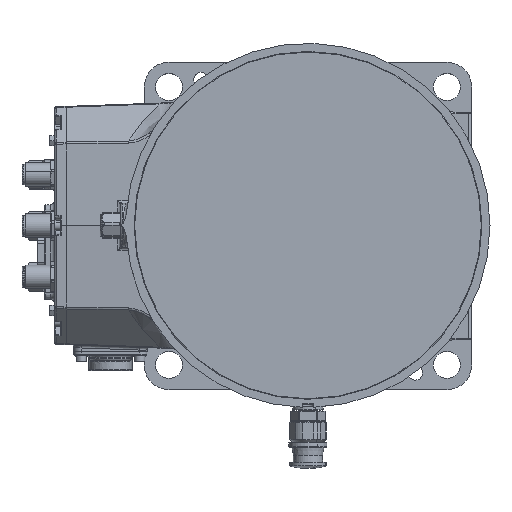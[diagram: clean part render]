
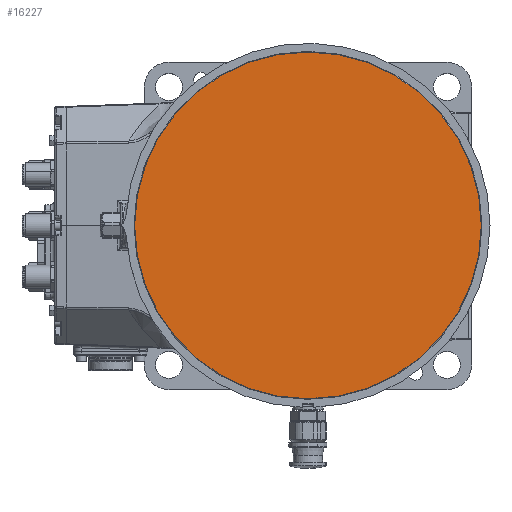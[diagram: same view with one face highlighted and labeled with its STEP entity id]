
A CAD part, top view. The second image highlights one B-rep face of the part: STEP entity #16227.
In plain terms, the highlighted planar face has unit normal (0, 0, 1).
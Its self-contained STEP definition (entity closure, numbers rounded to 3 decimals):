
#585 = CARTESIAN_POINT ( 'NONE',  ( 118.5, 0., 254. ) ) ;
#1637 = CIRCLE ( 'NONE', #33656, 118.5 ) ;
#2302 = CARTESIAN_POINT ( 'NONE',  ( -120.438, -124.693, 254. ) ) ;
#6678 = ORIENTED_EDGE ( 'NONE', *, *, #78531, .T. ) ;
#8231 = DIRECTION ( 'NONE',  ( 0., 0., -1. ) ) ;
#9754 = DIRECTION ( 'NONE',  ( -1., 0., 0. ) ) ;
#13065 = AXIS2_PLACEMENT_3D ( 'NONE', #2302, #8231, #79330 ) ;
#16227 = ADVANCED_FACE ( 'NONE', ( #85700 ), #23644, .F. ) ;
#23403 = CARTESIAN_POINT ( 'NONE',  ( 0., 0., 254. ) ) ;
#23644 = PLANE ( 'NONE',  #13065 ) ;
#28789 = EDGE_LOOP ( 'NONE', ( #35865, #6678 ) ) ;
#29106 = CIRCLE ( 'NONE', #52453, 118.5 ) ;
#31157 = DIRECTION ( 'NONE',  ( 0., 0., 1. ) ) ;
#33656 = AXIS2_PLACEMENT_3D ( 'NONE', #45000, #36820, #38157 ) ;
#34135 = EDGE_CURVE ( 'NONE', #54812, #85419, #1637, .T. ) ;
#35865 = ORIENTED_EDGE ( 'NONE', *, *, #34135, .T. ) ;
#36820 = DIRECTION ( 'NONE',  ( 0., 0., 1. ) ) ;
#38157 = DIRECTION ( 'NONE',  ( -1., 0., 0. ) ) ;
#45000 = CARTESIAN_POINT ( 'NONE',  ( 0., 0., 254. ) ) ;
#52453 = AXIS2_PLACEMENT_3D ( 'NONE', #23403, #31157, #9754 ) ;
#54812 = VERTEX_POINT ( 'NONE', #83666 ) ;
#78531 = EDGE_CURVE ( 'NONE', #85419, #54812, #29106, .T. ) ;
#79330 = DIRECTION ( 'NONE',  ( -1., 0., 0. ) ) ;
#83666 = CARTESIAN_POINT ( 'NONE',  ( -118.5, 0., 254. ) ) ;
#85419 = VERTEX_POINT ( 'NONE', #585 ) ;
#85700 = FACE_OUTER_BOUND ( 'NONE', #28789, .T. ) ;
